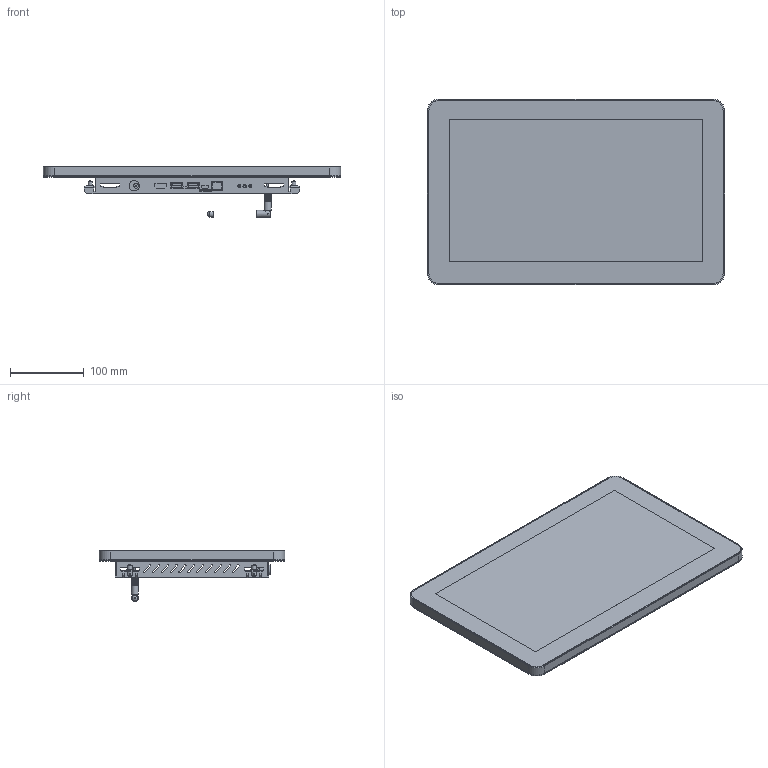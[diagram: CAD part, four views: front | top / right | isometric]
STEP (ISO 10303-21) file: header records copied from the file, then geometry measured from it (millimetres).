
FILE_DESCRIPTION(/* description */ (''),/* implementation_level */ '2;1');
FILE_NAME(/* name */ 'C:/Temp/STEP/VISIO-15-C.step',/* time_stamp */ '2020-04-03T14:10:04+03:00',/* author */ (''),/* organization */ (''),/* preprocessor_version */ 'ST-DEVELOPER v18',/* originating_system */ 'Autodesk Translation Framework v8.12.0.6',/* authorisation */ '');
FILE_SCHEMA (('AUTOMOTIVE_DESIGN { 1 0 10303 214 3 1 1 }'));
Length unit declared in the file: millimetre
Products named in the file (1): VISIO-15-C
Bounding box: 403.2 x 252.2 x 68.88 mm (x, y, z)
Volume: 739969.2 mm3; surface area: 734426.7 mm2
Topology: 23 solids, 39 shells, 1059 faces, 2779 edges, 1876 vertices
Faces by surface type: plane 792, cylinder 226, cone 27, sphere 8, bspline 5, torus 1
Full cylindrical faces by diameter (mm): 1 x2, 1.2 x2, 1.5 x1, 2 x2, 2.5 x17, 3.5 x12, 4 x6, 4.5 x1, 5 x4, 5.4 x14, 6 x4, 6.5 x1, 7 x1, 7.475 x1, 8.7 x1, 9 x5, 9.5 x2, 10.2 x1, 14 x1
Entity records: 34660 total; most frequent: CARTESIAN_POINT 6376, DIRECTION 5544, ORIENTED_EDGE 5492, EDGE_CURVE 2778, LINE 2028, VECTOR 2028, VERTEX_POINT 1876, AXIS2_PLACEMENT_3D 1758
